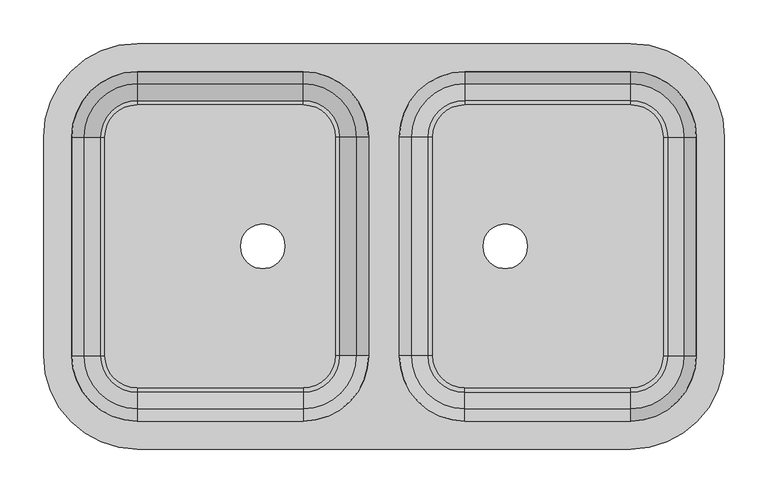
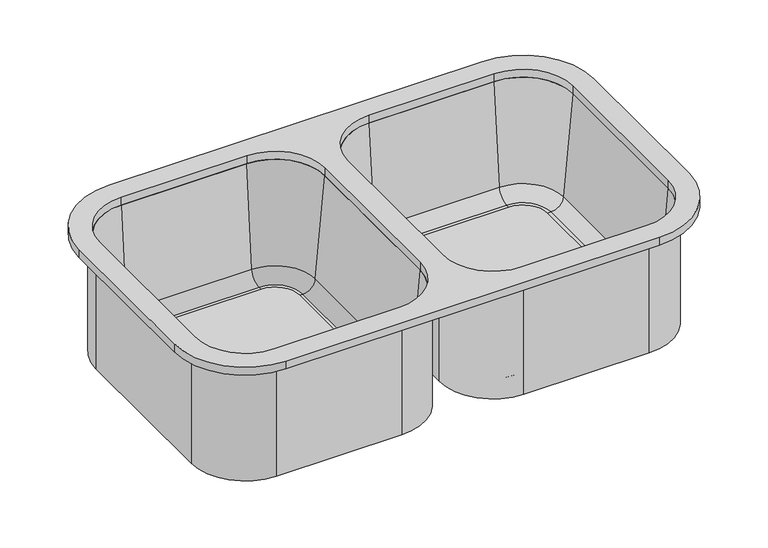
"""IFC4 building model written with IfcOpenShell, lengths in millimetres: flow terminal geometry, Tarja Teka subm BE 780 : TARJA PARA COCINA."""

from ifc_helpers import new_model, si_unit, point, frame, frame_2d, origin, place, context, project, spatial, polyline, circle_curve, ellipse_curve, trimmed, segment, composite_curve, outline, extrude, source, transform, mapped, element, save
from ifc_brep_helpers import plane_surface, cylinder_surface, revolved_surface, advanced_brep


def flow_terminal_e78d3796(model_context):
    return source(origin(), model_context, "Body", "SolidModel", [
        extrude(outline(composite_curve([segment(polyline([(-226.3107594, 182.2454011), (-36.3107594, 182.2454011)]), True, "CONTINUOUS"), segment(trimmed(circle_curve(frame_2d((-36.3107594, 145.3454011)), 36.9), [point((-36.3107594, 182.2454011))], [point((0.5892406, 145.3454011))], False, "CARTESIAN"), True, "CONTINUOUS"), segment(polyline([(0.5892406, 145.3454011), (0.5892406, -104.6545989)]), True, "CONTINUOUS"), segment(trimmed(circle_curve(frame_2d((-36.3107594, -104.6545989)), 36.9), [point((0.5892406, -104.6545989))], [point((-36.3107594, -141.5545989))], False, "CARTESIAN"), True, "CONTINUOUS"), segment(polyline([(-36.3107594, -141.5545989), (-226.3107594, -141.5545989)]), True, "CONTINUOUS"), segment(trimmed(circle_curve(frame_2d((-226.3107594, -104.6545989)), 36.9), [point((-226.3107594, -141.5545989))], [point((-263.2107594, -104.6545989))], False, "CARTESIAN"), True, "CONTINUOUS"), segment(polyline([(-263.2107594, -104.6545989), (-263.2107594, 145.3454011)]), True, "CONTINUOUS"), segment(trimmed(circle_curve(frame_2d((-226.3107594, 145.3454011)), 36.9), [point((-263.2107594, 145.3454011))], [point((-226.3107594, 182.2454011))], False, "CARTESIAN"), True, "CONTINUOUS")], self_intersect=False), holes=[composite_curve([segment(trimmed(circle_curve(frame_2d((-82.5783069, 20.3454011)), 25.4), [point((-57.1783069, 20.3454011))], [point((-107.9783069, 20.3454011))], True, "CARTESIAN"), True, "CONTINUOUS"), segment(trimmed(circle_curve(frame_2d((-82.5783069, 20.3454011)), 25.4), [point((-107.9783069, 20.3454011))], [point((-57.1783069, 20.3454011))], True, "CARTESIAN"), True, "CONTINUOUS")], self_intersect=False)]), frame((0.0, 0.0, 727.1), z_axis=(0.0, 0.0, 1.0), x_axis=(1.0, 0.0, 0.0)), (0.0, 0.0, 1.0), 9.525),
        advanced_brep(
        [(-301.3107594, 145.3454011, 914.4), (-226.3107594, 220.3454011, 914.4), (-226.3107594, 226.6954011, 914.4), (-307.6607594, 145.3454011, 914.4), (-287.2788624, 145.3454011, 754.0146831), (-226.3107594, 206.3135041, 754.0146831), (-268.3013534, 145.3454011, 736.625), (-226.3107594, 187.3359951, 736.625), (-263.2107594, 145.3454011, 736.625), (-226.3107594, 182.2454011, 736.625), (-263.2107594, 145.3454011, 727.1), (-226.3107594, 182.2454011, 727.1), (-307.6607594, 145.3454011, 727.1), (-226.3107594, 226.6954011, 727.1), (-307.6607594, -104.6545989, 914.4), (-301.3107594, -104.6545989, 914.4), (-287.2788624, -104.6545989, 754.0146831), (-268.3013534, -104.6545989, 736.625), (-263.2107594, -104.6545989, 736.625), (-263.2107594, -104.6545989, 727.1), (-307.6607594, -104.6545989, 727.1), (-226.3107594, -179.6545989, 914.4), (-226.3107594, -186.0045989, 914.4), (-226.3107594, -165.6227019, 754.0146831), (-226.3107594, -146.6451929, 736.625), (-226.3107594, -141.5545989, 736.625), (-226.3107594, -141.5545989, 727.1), (-226.3107594, -186.0045989, 727.1), (-36.3107594, -186.0045989, 914.4), (-36.3107594, -179.6545989, 914.4), (-36.3107594, -165.6227019, 754.0146831), (-36.3107594, -146.6451929, 736.625), (-36.3107594, -141.5545989, 736.625), (-36.3107594, -141.5545989, 727.1), (-36.3107594, -186.0045989, 727.1), (38.6892406, -104.6545989, 914.4), (45.0392406, -104.6545989, 914.4), (24.6573435, -104.6545989, 754.0146831), (5.6798345, -104.6545989, 736.625), (0.5892406, -104.6545989, 736.625), (0.5892406, -104.6545989, 727.1), (45.0392406, -104.6545989, 727.1), (45.0392406, 145.3454011, 914.4), (38.6892406, 145.3454011, 914.4), (24.6573435, 145.3454011, 754.0146831), (5.6798345, 145.3454011, 736.625), (0.5892406, 145.3454011, 736.625), (0.5892406, 145.3454011, 727.1), (45.0392406, 145.3454011, 727.1), (-36.3107594, 220.3454011, 914.4), (-36.3107594, 226.6954011, 914.4), (-36.3107594, 206.3135041, 754.0146831), (-36.3107594, 187.3359951, 736.625), (-36.3107594, 182.2454011, 736.625), (-36.3107594, 182.2454011, 727.1), (-36.3107594, 226.6954011, 727.1)],
        [
            (0, 1, circle_curve(frame((-226.3107594, 145.3454011, 914.4), z_axis=(0.0, 0.0, -1.0), x_axis=(0.0, 1.0, 0.0)), 75.0)),
            (1, 2),
            (2, 3, circle_curve(frame((-226.3107594, 145.3454011, 914.4), z_axis=(0.0, 0.0, 1.0), x_axis=(0.0, 1.0, 0.0)), 81.35)),
            (3, 0),
            (4, 5, circle_curve(frame((-226.3107594, 145.3454011, 754.0146831), z_axis=(0.0, 0.0, -1.0), x_axis=(0.0, 1.0, 0.0)), 60.968103)),
            (5, 1),
            (0, 4),
            (6, 7, circle_curve(frame((-226.3107594, 145.3454011, 736.625), z_axis=(0.0, 0.0, -1.0), x_axis=(0.0, 1.0, 0.0)), 41.990594)),
            (7, 5, circle_curve(frame((-226.3107594, 187.3359951, 755.675), z_axis=(1.0, 0.0, 0.0), x_axis=(0.0, -1.0, 0.0)), 19.05)),
            (4, 6, circle_curve(frame((-268.3013534, 145.3454011, 755.675), z_axis=(0.0, -1.0, 0.0), x_axis=(1.0, 0.0, 0.0)), 19.05)),
            (8, 9, circle_curve(frame((-226.3107594, 145.3454011, 736.625), z_axis=(0.0, 0.0, -1.0), x_axis=(0.0, 1.0, 0.0)), 36.9)),
            (9, 7),
            (6, 8),
            (10, 11, circle_curve(frame((-226.3107594, 145.3454011, 727.1), z_axis=(0.0, 0.0, -1.0), x_axis=(0.0, 1.0, 0.0)), 36.9)),
            (11, 9),
            (8, 10),
            (12, 13, circle_curve(frame((-226.3107594, 145.3454011, 727.1), z_axis=(0.0, 0.0, -1.0), x_axis=(0.0, 1.0, 0.0)), 81.35)),
            (13, 11),
            (10, 12),
            (2, 13),
            (12, 3),
            (3, 14),
            (14, 15),
            (15, 0),
            (15, 16),
            (16, 4),
            (16, 17, circle_curve(frame((-268.3013534, -104.6545989, 755.675), z_axis=(0.0, -1.0, 0.0), x_axis=(1.0, 0.0, 0.0)), 19.05)),
            (17, 6),
            (17, 18),
            (18, 8),
            (18, 19),
            (19, 10),
            (19, 20),
            (20, 12),
            (20, 14),
            (21, 15, circle_curve(frame((-226.3107594, -104.6545989, 914.4), z_axis=(0.0, 0.0, -1.0), x_axis=(-1.0, 0.0, 0.0)), 75.0)),
            (14, 22, circle_curve(frame((-226.3107594, -104.6545989, 914.4), z_axis=(0.0, 0.0, 1.0), x_axis=(-1.0, 0.0, 0.0)), 81.35)),
            (22, 21),
            (23, 16, circle_curve(frame((-226.3107594, -104.6545989, 754.0146831), z_axis=(0.0, 0.0, -1.0), x_axis=(-1.0, 0.0, 0.0)), 60.968103)),
            (21, 23),
            (24, 17, circle_curve(frame((-226.3107594, -104.6545989, 736.625), z_axis=(0.0, 0.0, -1.0), x_axis=(-1.0, 0.0, 0.0)), 41.990594)),
            (23, 24, circle_curve(frame((-226.3107594, -146.6451929, 755.675), z_axis=(1.0, 0.0, 0.0), x_axis=(0.0, 1.0, 0.0)), 19.05)),
            (25, 18, circle_curve(frame((-226.3107594, -104.6545989, 736.625), z_axis=(0.0, 0.0, -1.0), x_axis=(-1.0, 0.0, 0.0)), 36.9)),
            (24, 25),
            (26, 19, circle_curve(frame((-226.3107594, -104.6545989, 727.1), z_axis=(0.0, 0.0, -1.0), x_axis=(-1.0, 0.0, 0.0)), 36.9)),
            (25, 26),
            (27, 20, circle_curve(frame((-226.3107594, -104.6545989, 727.1), z_axis=(0.0, 0.0, -1.0), x_axis=(-1.0, 0.0, 0.0)), 81.35)),
            (26, 27),
            (27, 22),
            (22, 28),
            (28, 29),
            (29, 21),
            (29, 30),
            (30, 23),
            (30, 31, circle_curve(frame((-36.3107594, -146.6451929, 755.675), z_axis=(1.0, 0.0, 0.0), x_axis=(0.0, 1.0, 0.0)), 19.05)),
            (31, 24),
            (31, 32),
            (32, 25),
            (32, 33),
            (33, 26),
            (33, 34),
            (34, 27),
            (34, 28),
            (35, 29, circle_curve(frame((-36.3107594, -104.6545989, 914.4), z_axis=(0.0, 0.0, -1.0), x_axis=(0.0, -1.0, 0.0)), 75.0)),
            (28, 36, circle_curve(frame((-36.3107594, -104.6545989, 914.4), z_axis=(0.0, 0.0, 1.0), x_axis=(0.0, -1.0, 0.0)), 81.35)),
            (36, 35),
            (37, 30, circle_curve(frame((-36.3107594, -104.6545989, 754.0146831), z_axis=(0.0, 0.0, -1.0), x_axis=(0.0, -1.0, 0.0)), 60.968103)),
            (35, 37),
            (38, 31, circle_curve(frame((-36.3107594, -104.6545989, 736.625), z_axis=(0.0, 0.0, -1.0), x_axis=(0.0, -1.0, 0.0)), 41.990594)),
            (37, 38, circle_curve(frame((5.6798345, -104.6545989, 755.675), z_axis=(0.0, 1.0, 0.0), x_axis=(-1.0, 0.0, 0.0)), 19.05)),
            (39, 32, circle_curve(frame((-36.3107594, -104.6545989, 736.625), z_axis=(0.0, 0.0, -1.0), x_axis=(0.0, -1.0, 0.0)), 36.9)),
            (38, 39),
            (40, 33, circle_curve(frame((-36.3107594, -104.6545989, 727.1), z_axis=(0.0, 0.0, -1.0), x_axis=(0.0, -1.0, 0.0)), 36.9)),
            (39, 40),
            (41, 34, circle_curve(frame((-36.3107594, -104.6545989, 727.1), z_axis=(0.0, 0.0, -1.0), x_axis=(0.0, -1.0, 0.0)), 81.35)),
            (40, 41),
            (41, 36),
            (36, 42),
            (42, 43),
            (43, 35),
            (43, 44),
            (44, 37),
            (44, 45, circle_curve(frame((5.6798345, 145.3454011, 755.675), z_axis=(0.0, 1.0, 0.0), x_axis=(-1.0, 0.0, 0.0)), 19.05)),
            (45, 38),
            (45, 46),
            (46, 39),
            (46, 47),
            (47, 40),
            (47, 48),
            (48, 41),
            (48, 42),
            (49, 43, circle_curve(frame((-36.3107594, 145.3454011, 914.4), z_axis=(0.0, 0.0, -1.0), x_axis=(1.0, 0.0, 0.0)), 75.0)),
            (42, 50, circle_curve(frame((-36.3107594, 145.3454011, 914.4), z_axis=(0.0, 0.0, 1.0), x_axis=(1.0, 0.0, 0.0)), 81.35)),
            (50, 49),
            (51, 44, circle_curve(frame((-36.3107594, 145.3454011, 754.0146831), z_axis=(0.0, 0.0, -1.0), x_axis=(1.0, 0.0, 0.0)), 60.968103)),
            (49, 51),
            (52, 45, circle_curve(frame((-36.3107594, 145.3454011, 736.625), z_axis=(0.0, 0.0, -1.0), x_axis=(1.0, 0.0, 0.0)), 41.990594)),
            (51, 52, circle_curve(frame((-36.3107594, 187.3359951, 755.675), z_axis=(-1.0, 0.0, 0.0), x_axis=(0.0, -1.0, 0.0)), 19.05)),
            (53, 46, circle_curve(frame((-36.3107594, 145.3454011, 736.625), z_axis=(0.0, 0.0, -1.0), x_axis=(1.0, 0.0, 0.0)), 36.9)),
            (52, 53),
            (54, 47, circle_curve(frame((-36.3107594, 145.3454011, 727.1), z_axis=(0.0, 0.0, -1.0), x_axis=(1.0, 0.0, 0.0)), 36.9)),
            (53, 54),
            (55, 48, circle_curve(frame((-36.3107594, 145.3454011, 727.1), z_axis=(0.0, 0.0, -1.0), x_axis=(1.0, 0.0, 0.0)), 81.35)),
            (54, 55),
            (55, 50),
            (50, 2),
            (1, 49),
            (5, 51),
            (7, 52),
            (9, 53),
            (11, 54),
            (13, 55),
        ],
        [
            plane_surface(frame((-226.3107594, 145.3454011, 914.4), z_axis=(0.0, 0.0, 1.0), x_axis=(0.0, 1.0, 0.0))),
            revolved_surface(polyline([(-226.3107594, 220.3454011, 914.4), (-226.3107594, 206.3135041, 754.0146831)]), (-226.3107594, 145.3454011, 0.0), (0.0, 0.0, 1.0)),
            revolved_surface(trimmed(ellipse_curve(frame((-226.3107594, 187.3359951, 755.675), z_axis=(-1.0, 0.0, 0.0), x_axis=(0.0, -1.0, 0.0)), 19.05, 19.05), [point((-226.3107594, 206.3135041, 754.0146831))], [point((-226.3107594, 187.3359951, 736.625))], True, "CARTESIAN"), (-226.3107594, 145.3454011, 0.0), (0.0, 0.0, 1.0)),
            plane_surface(frame((-226.3107594, 145.3454011, 736.625), z_axis=(0.0, 0.0, 1.0), x_axis=(0.0, 1.0, 0.0))),
            revolved_surface(polyline([(-226.3107594, 182.2454011, 736.625), (-226.3107594, 182.2454011, 727.1)]), (-226.3107594, 145.3454011, 0.0), (0.0, 0.0, 1.0)),
            plane_surface(frame((-226.3107594, 145.3454011, 727.1), z_axis=(0.0, 0.0, -1.0), x_axis=(0.0, 1.0, 0.0))),
            cylinder_surface(frame((-226.3107594, 145.3454011, 0.0), z_axis=(0.0, 0.0, 1.0), x_axis=(0.0, 1.0, 0.0)), 81.35),
            plane_surface(frame((-307.6607594, 145.3454011, 914.4), z_axis=(0.0, 0.0, 1.0), x_axis=(0.0, -1.0, 0.0))),
            plane_surface(frame((-301.3107594, 145.3454011, 914.4), z_axis=(0.996194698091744, 0.0, 0.08715574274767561), x_axis=(0.0, -1.0, 0.0))),
            revolved_surface(polyline([(-249.25135339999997, -104.6545989, 755.675), (-249.25135339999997, 145.3454011, 755.675)]), (-268.3013534, 145.3454011, 755.675), (0.0, -1.0, 0.0)),
            plane_surface(frame((-268.3013534, 145.3454011, 736.625), z_axis=(0.0, 0.0, 1.0), x_axis=(0.0, -1.0, 0.0))),
            plane_surface(frame((-263.2107594, 145.3454011, 736.625), z_axis=(1.0, 0.0, 0.0), x_axis=(0.0, -1.0, 0.0))),
            plane_surface(frame((-263.2107594, 145.3454011, 727.1), z_axis=(0.0, 0.0, -1.0), x_axis=(0.0, -1.0, 0.0))),
            plane_surface(frame((-307.6607594, 145.3454011, 727.1), z_axis=(-1.0, 0.0, 0.0), x_axis=(0.0, -1.0, 0.0))),
            plane_surface(frame((-226.3107594, -104.6545989, 914.4), z_axis=(0.0, 0.0, 1.0), x_axis=(-1.0, 0.0, 0.0))),
            revolved_surface(polyline([(-301.3107594, -104.6545989, 914.4), (-287.2788624, -104.6545989, 754.0146831)]), (-226.3107594, -104.6545989, 0.0), (0.0, 0.0, 1.0)),
            revolved_surface(trimmed(ellipse_curve(frame((-268.3013534, -104.6545989, 755.675), z_axis=(0.0, -1.0, 0.0), x_axis=(1.0, 0.0, 0.0)), 19.05, 19.05), [point((-287.2788624, -104.6545989, 754.0146831))], [point((-268.3013534, -104.6545989, 736.625))], True, "CARTESIAN"), (-226.3107594, -104.6545989, 0.0), (0.0, 0.0, 1.0)),
            plane_surface(frame((-226.3107594, -104.6545989, 736.625), z_axis=(0.0, 0.0, 1.0), x_axis=(-1.0, 0.0, 0.0))),
            revolved_surface(polyline([(-263.2107594, -104.6545989, 736.625), (-263.2107594, -104.6545989, 727.1)]), (-226.3107594, -104.6545989, 0.0), (0.0, 0.0, 1.0)),
            plane_surface(frame((-226.3107594, -104.6545989, 727.1), z_axis=(0.0, 0.0, -1.0), x_axis=(-1.0, 0.0, 0.0))),
            cylinder_surface(frame((-226.3107594, -104.6545989, 0.0), z_axis=(0.0, 0.0, 1.0), x_axis=(-1.0, 0.0, 0.0)), 81.35),
            plane_surface(frame((-226.3107594, -186.0045989, 914.4), z_axis=(0.0, 0.0, 1.0), x_axis=(1.0, 0.0, 0.0))),
            plane_surface(frame((-226.3107594, -179.6545989, 914.4), z_axis=(0.0, 0.996194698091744, 0.08715574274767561), x_axis=(1.0, 0.0, 0.0))),
            revolved_surface(polyline([(-36.310759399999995, -127.59519290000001, 755.675), (-226.3107594, -127.59519290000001, 755.675)]), (-226.3107594, -146.6451929, 755.675), (1.0, 0.0, 0.0)),
            plane_surface(frame((-226.3107594, -146.6451929, 736.625), z_axis=(0.0, 0.0, 1.0), x_axis=(1.0, 0.0, 0.0))),
            plane_surface(frame((-226.3107594, -141.5545989, 736.625), z_axis=(0.0, 1.0, 0.0), x_axis=(1.0, 0.0, 0.0))),
            plane_surface(frame((-226.3107594, -141.5545989, 727.1), z_axis=(0.0, 0.0, -1.0), x_axis=(1.0, 0.0, 0.0))),
            plane_surface(frame((-226.3107594, -186.0045989, 727.1), z_axis=(0.0, -1.0, 0.0), x_axis=(1.0, 0.0, 0.0))),
            plane_surface(frame((-36.3107594, -104.6545989, 914.4), z_axis=(0.0, 0.0, 1.0), x_axis=(0.0, -1.0, 0.0))),
            revolved_surface(polyline([(-36.3107594, -179.6545989, 914.4), (-36.3107594, -165.6227019, 754.0146831)]), (-36.3107594, -104.6545989, 0.0), (0.0, 0.0, 1.0)),
            revolved_surface(trimmed(ellipse_curve(frame((-36.3107594, -146.6451929, 755.675), z_axis=(1.0, 0.0, 0.0), x_axis=(0.0, 1.0, 0.0)), 19.05, 19.05), [point((-36.3107594, -165.6227019, 754.0146831))], [point((-36.3107594, -146.6451929, 736.625))], True, "CARTESIAN"), (-36.3107594, -104.6545989, 0.0), (0.0, 0.0, 1.0)),
            plane_surface(frame((-36.3107594, -104.6545989, 736.625), z_axis=(0.0, 0.0, 1.0), x_axis=(0.0, -1.0, 0.0))),
            revolved_surface(polyline([(-36.3107594, -141.5545989, 736.625), (-36.3107594, -141.5545989, 727.1)]), (-36.3107594, -104.6545989, 0.0), (0.0, 0.0, 1.0)),
            plane_surface(frame((-36.3107594, -104.6545989, 727.1), z_axis=(0.0, 0.0, -1.0), x_axis=(0.0, -1.0, 0.0))),
            cylinder_surface(frame((-36.3107594, -104.6545989, 0.0), z_axis=(0.0, 0.0, 1.0), x_axis=(0.0, -1.0, 0.0)), 81.35),
            plane_surface(frame((45.0392406, -104.6545989, 914.4), z_axis=(0.0, 0.0, 1.0), x_axis=(0.0, 1.0, 0.0))),
            plane_surface(frame((38.6892406, -104.6545989, 914.4), z_axis=(-0.996194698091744, 0.0, 0.08715574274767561), x_axis=(0.0, 1.0, 0.0))),
            revolved_surface(polyline([(-13.3701655, 145.3454011, 755.675), (-13.3701655, -104.6545989, 755.675)]), (5.6798345, -104.6545989, 755.675), (0.0, 1.0, 0.0)),
            plane_surface(frame((5.6798345, -104.6545989, 736.625), z_axis=(0.0, 0.0, 1.0), x_axis=(0.0, 1.0, 0.0))),
            plane_surface(frame((0.5892406, -104.6545989, 736.625), z_axis=(-1.0, 0.0, 0.0), x_axis=(0.0, 1.0, 0.0))),
            plane_surface(frame((0.5892406, -104.6545989, 727.1), z_axis=(0.0, 0.0, -1.0), x_axis=(0.0, 1.0, 0.0))),
            plane_surface(frame((45.0392406, -104.6545989, 727.1), z_axis=(1.0, 0.0, 0.0), x_axis=(0.0, 1.0, 0.0))),
            plane_surface(frame((-36.3107594, 145.3454011, 914.4), z_axis=(0.0, 0.0, 1.0), x_axis=(1.0, 0.0, 0.0))),
            revolved_surface(polyline([(38.6892406, 145.3454011, 914.4), (24.6573435, 145.3454011, 754.0146831)]), (-36.3107594, 145.3454011, 0.0), (0.0, 0.0, 1.0)),
            revolved_surface(trimmed(ellipse_curve(frame((5.6798345, 145.3454011, 755.675), z_axis=(0.0, 1.0, 0.0), x_axis=(-1.0, 0.0, 0.0)), 19.05, 19.05), [point((24.6573435, 145.3454011, 754.0146831))], [point((5.6798345, 145.3454011, 736.625))], True, "CARTESIAN"), (-36.3107594, 145.3454011, 0.0), (0.0, 0.0, 1.0)),
            plane_surface(frame((-36.3107594, 145.3454011, 736.625), z_axis=(0.0, 0.0, 1.0), x_axis=(1.0, 0.0, 0.0))),
            revolved_surface(polyline([(0.5892405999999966, 145.3454011, 736.625), (0.5892405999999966, 145.3454011, 727.1)]), (-36.3107594, 145.3454011, 0.0), (0.0, 0.0, 1.0)),
            plane_surface(frame((-36.3107594, 145.3454011, 727.1), z_axis=(0.0, 0.0, -1.0), x_axis=(1.0, 0.0, 0.0))),
            cylinder_surface(frame((-36.3107594, 145.3454011, 0.0), z_axis=(0.0, 0.0, 1.0), x_axis=(1.0, 0.0, 0.0)), 81.35),
            plane_surface(frame((-36.3107594, 226.6954011, 914.4), z_axis=(0.0, 0.0, 1.0), x_axis=(-1.0, 0.0, 0.0))),
            plane_surface(frame((-36.3107594, 220.3454011, 914.4), z_axis=(0.0, -0.996194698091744, 0.08715574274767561), x_axis=(-1.0, 0.0, 0.0))),
            revolved_surface(polyline([(-226.3107594, 168.28599509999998, 755.675), (-36.3107594, 168.28599509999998, 755.675)]), (-36.3107594, 187.3359951, 755.675), (-1.0, 0.0, 0.0)),
            plane_surface(frame((-36.3107594, 187.3359951, 736.625), z_axis=(0.0, 0.0, 1.0), x_axis=(-1.0, 0.0, 0.0))),
            plane_surface(frame((-36.3107594, 182.2454011, 736.625), z_axis=(0.0, -1.0, 0.0), x_axis=(-1.0, 0.0, 0.0))),
            plane_surface(frame((-36.3107594, 182.2454011, 727.1), z_axis=(0.0, 0.0, -1.0), x_axis=(-1.0, 0.0, 0.0))),
            plane_surface(frame((-36.3107594, 226.6954011, 727.1), z_axis=(0.0, 1.0, 0.0), x_axis=(-1.0, 0.0, 0.0))),
        ],
        [
            (0, [[1, 2, 3, 4]]),
            (1, [[5, 6, -1, 7]]),
            (2, [[8, 9, -5, 10]]),
            (3, [[11, 12, -8, 13]]),
            (4, [[14, 15, -11, 16]]),
            (5, [[17, 18, -14, 19]]),
            (6, [[-3, 20, -17, 21]]),
            (7, [[-4, 22, 23, 24]]),
            (8, [[-7, -24, 25, 26]]),
            (9, [[-10, -26, 27, 28]]),
            (10, [[-13, -28, 29, 30]]),
            (11, [[-16, -30, 31, 32]]),
            (12, [[-19, -32, 33, 34]]),
            (13, [[-21, -34, 35, -22]]),
            (14, [[36, -23, 37, 38]]),
            (15, [[39, -25, -36, 40]]),
            (16, [[41, -27, -39, 42]]),
            (17, [[43, -29, -41, 44]]),
            (18, [[45, -31, -43, 46]]),
            (19, [[47, -33, -45, 48]]),
            (20, [[-37, -35, -47, 49]]),
            (21, [[-38, 50, 51, 52]]),
            (22, [[-40, -52, 53, 54]]),
            (23, [[-42, -54, 55, 56]]),
            (24, [[-44, -56, 57, 58]]),
            (25, [[-46, -58, 59, 60]]),
            (26, [[-48, -60, 61, 62]]),
            (27, [[-49, -62, 63, -50]]),
            (28, [[64, -51, 65, 66]]),
            (29, [[67, -53, -64, 68]]),
            (30, [[69, -55, -67, 70]]),
            (31, [[71, -57, -69, 72]]),
            (32, [[73, -59, -71, 74]]),
            (33, [[75, -61, -73, 76]]),
            (34, [[-65, -63, -75, 77]]),
            (35, [[-66, 78, 79, 80]]),
            (36, [[-68, -80, 81, 82]]),
            (37, [[-70, -82, 83, 84]]),
            (38, [[-72, -84, 85, 86]]),
            (39, [[-74, -86, 87, 88]]),
            (40, [[-76, -88, 89, 90]]),
            (41, [[-77, -90, 91, -78]]),
            (42, [[92, -79, 93, 94]]),
            (43, [[95, -81, -92, 96]]),
            (44, [[97, -83, -95, 98]]),
            (45, [[99, -85, -97, 100]]),
            (46, [[101, -87, -99, 102]]),
            (47, [[103, -89, -101, 104]]),
            (48, [[-93, -91, -103, 105]]),
            (49, [[-94, 106, -2, 107]]),
            (50, [[-96, -107, -6, 108]]),
            (51, [[-98, -108, -9, 109]]),
            (52, [[-100, -109, -12, 110]]),
            (53, [[-102, -110, -15, 111]]),
            (54, [[-104, -111, -18, 112]]),
            (55, [[-105, -112, -20, -106]]),
        ],
    ),
        extrude(outline(composite_curve([segment(trimmed(circle_curve(frame_2d((338.6892406, 145.3454011)), 36.9), [point((338.6892406, 182.2454011))], [point((375.5892406, 145.3454011))], False, "CARTESIAN"), True, "CONTINUOUS"), segment(polyline([(375.5892406, 145.3454011), (375.5892406, -104.6545989)]), True, "CONTINUOUS"), segment(trimmed(circle_curve(frame_2d((338.6892406, -104.6545989)), 36.9), [point((375.5892406, -104.6545989))], [point((338.6892406, -141.5545989))], False, "CARTESIAN"), True, "CONTINUOUS"), segment(polyline([(338.6892406, -141.5545989), (148.6892406, -141.5545989)]), True, "CONTINUOUS"), segment(trimmed(circle_curve(frame_2d((148.6892406, -104.6545989)), 36.9), [point((148.6892406, -141.5545989))], [point((111.7892406, -104.6545989))], False, "CARTESIAN"), True, "CONTINUOUS"), segment(polyline([(111.7892406, -104.6545989), (111.7892406, 145.3454011)]), True, "CONTINUOUS"), segment(trimmed(circle_curve(frame_2d((148.6892406, 145.3454011)), 36.9), [point((111.7892406, 145.3454011))], [point((148.6892406, 182.2454011))], False, "CARTESIAN"), True, "CONTINUOUS"), segment(polyline([(148.6892406, 182.2454011), (338.6892406, 182.2454011)]), True, "CONTINUOUS")], self_intersect=False), holes=[composite_curve([segment(trimmed(circle_curve(frame_2d((194.9567881, 20.3454011)), 25.4), [point((169.5567881, 20.3454011))], [point((220.3567881, 20.3454011))], True, "CARTESIAN"), True, "CONTINUOUS"), segment(trimmed(circle_curve(frame_2d((194.9567881, 20.3454011)), 25.4), [point((220.3567881, 20.3454011))], [point((169.5567881, 20.3454011))], True, "CARTESIAN"), True, "CONTINUOUS")], self_intersect=False)]), frame((0.0, 0.0, 727.1), z_axis=(0.0, 0.0, 1.0), x_axis=(1.0, 0.0, 0.0)), (0.0, 0.0, 1.0), 9.525),
        advanced_brep(
        [(420.0392406, 145.3454011, 727.1), (338.6892406, 226.6954011, 727.1), (338.6892406, 226.6954011, 914.4), (420.0392406, 145.3454011, 914.4), (375.5892406, 145.3454011, 727.1), (338.6892406, 182.2454011, 727.1), (375.5892406, 145.3454011, 736.625), (338.6892406, 182.2454011, 736.625), (380.6798345, 145.3454011, 736.625), (338.6892406, 187.3359951, 736.625), (399.6573435, 145.3454011, 754.0146831), (338.6892406, 206.3135041, 754.0146831), (413.6892406, 145.3454011, 914.4), (338.6892406, 220.3454011, 914.4), (420.0392406, -104.6545989, 914.4), (420.0392406, -104.6545989, 727.1), (375.5892406, -104.6545989, 727.1), (375.5892406, -104.6545989, 736.625), (380.6798345, -104.6545989, 736.625), (399.6573435, -104.6545989, 754.0146831), (413.6892406, -104.6545989, 914.4), (338.6892406, -186.0045989, 727.1), (338.6892406, -186.0045989, 914.4), (338.6892406, -141.5545989, 727.1), (338.6892406, -141.5545989, 736.625), (338.6892406, -146.6451929, 736.625), (338.6892406, -165.6227019, 754.0146831), (338.6892406, -179.6545989, 914.4), (148.6892406, -186.0045989, 914.4), (148.6892406, -186.0045989, 727.1), (148.6892406, -141.5545989, 727.1), (148.6892406, -141.5545989, 736.625), (148.6892406, -146.6451929, 736.625), (148.6892406, -165.6227019, 754.0146831), (148.6892406, -179.6545989, 914.4), (67.3392406, -104.6545989, 727.1), (67.3392406, -104.6545989, 914.4), (111.7892406, -104.6545989, 727.1), (111.7892406, -104.6545989, 736.625), (106.6986466, -104.6545989, 736.625), (87.7211376, -104.6545989, 754.0146831), (73.6892406, -104.6545989, 914.4), (67.3392406, 145.3454011, 914.4), (67.3392406, 145.3454011, 727.1), (111.7892406, 145.3454011, 727.1), (111.7892406, 145.3454011, 736.625), (106.6986466, 145.3454011, 736.625), (87.7211376, 145.3454011, 754.0146831), (73.6892406, 145.3454011, 914.4), (148.6892406, 226.6954011, 727.1), (148.6892406, 226.6954011, 914.4), (148.6892406, 182.2454011, 727.1), (148.6892406, 182.2454011, 736.625), (148.6892406, 187.3359951, 736.625), (148.6892406, 206.3135041, 754.0146831), (148.6892406, 220.3454011, 914.4)],
        [
            (0, 1, circle_curve(frame((338.6892406, 145.3454011, 727.1), z_axis=(0.0, 0.0, 1.0), x_axis=(0.0, 1.0, 0.0)), 81.35)),
            (1, 2),
            (2, 3, circle_curve(frame((338.6892406, 145.3454011, 914.4), z_axis=(0.0, 0.0, -1.0), x_axis=(0.0, 1.0, 0.0)), 81.35)),
            (3, 0),
            (4, 5, circle_curve(frame((338.6892406, 145.3454011, 727.1), z_axis=(0.0, 0.0, 1.0), x_axis=(0.0, 1.0, 0.0)), 36.9)),
            (5, 1),
            (0, 4),
            (6, 7, circle_curve(frame((338.6892406, 145.3454011, 736.625), z_axis=(0.0, 0.0, 1.0), x_axis=(0.0, 1.0, 0.0)), 36.9)),
            (7, 5),
            (4, 6),
            (8, 9, circle_curve(frame((338.6892406, 145.3454011, 736.625), z_axis=(0.0, 0.0, 1.0), x_axis=(0.0, 1.0, 0.0)), 41.990594)),
            (9, 7),
            (6, 8),
            (10, 11, circle_curve(frame((338.6892406, 145.3454011, 754.0146831), z_axis=(0.0, 0.0, 1.0), x_axis=(0.0, 1.0, 0.0)), 60.968103)),
            (11, 9, circle_curve(frame((338.6892406, 187.3359951, 755.675), z_axis=(-1.0, 0.0, 0.0), x_axis=(0.0, 1.0, 0.0)), 19.05)),
            (8, 10, circle_curve(frame((380.6798345, 145.3454011, 755.675), z_axis=(0.0, -1.0, 0.0), x_axis=(1.0, 0.0, 0.0)), 19.05)),
            (12, 13, circle_curve(frame((338.6892406, 145.3454011, 914.4), z_axis=(0.0, 0.0, 1.0), x_axis=(0.0, 1.0, 0.0)), 75.0)),
            (13, 11),
            (10, 12),
            (2, 13),
            (12, 3),
            (3, 14),
            (14, 15),
            (15, 0),
            (15, 16),
            (16, 4),
            (16, 17),
            (17, 6),
            (17, 18),
            (18, 8),
            (18, 19, circle_curve(frame((380.6798345, -104.6545989, 755.675), z_axis=(0.0, -1.0, 0.0), x_axis=(1.0, 0.0, 0.0)), 19.05)),
            (19, 10),
            (19, 20),
            (20, 12),
            (20, 14),
            (21, 15, circle_curve(frame((338.6892406, -104.6545989, 727.1), z_axis=(0.0, 0.0, 1.0), x_axis=(1.0, 0.0, 0.0)), 81.35)),
            (14, 22, circle_curve(frame((338.6892406, -104.6545989, 914.4), z_axis=(0.0, 0.0, -1.0), x_axis=(1.0, 0.0, 0.0)), 81.35)),
            (22, 21),
            (23, 16, circle_curve(frame((338.6892406, -104.6545989, 727.1), z_axis=(0.0, 0.0, 1.0), x_axis=(1.0, 0.0, 0.0)), 36.9)),
            (21, 23),
            (24, 17, circle_curve(frame((338.6892406, -104.6545989, 736.625), z_axis=(0.0, 0.0, 1.0), x_axis=(1.0, 0.0, 0.0)), 36.9)),
            (23, 24),
            (25, 18, circle_curve(frame((338.6892406, -104.6545989, 736.625), z_axis=(0.0, 0.0, 1.0), x_axis=(1.0, 0.0, 0.0)), 41.990594)),
            (24, 25),
            (26, 19, circle_curve(frame((338.6892406, -104.6545989, 754.0146831), z_axis=(0.0, 0.0, 1.0), x_axis=(1.0, 0.0, 0.0)), 60.968103)),
            (25, 26, circle_curve(frame((338.6892406, -146.6451929, 755.675), z_axis=(-1.0, 0.0, 0.0), x_axis=(0.0, -1.0, 0.0)), 19.05)),
            (27, 20, circle_curve(frame((338.6892406, -104.6545989, 914.4), z_axis=(0.0, 0.0, 1.0), x_axis=(1.0, 0.0, 0.0)), 75.0)),
            (26, 27),
            (27, 22),
            (22, 28),
            (28, 29),
            (29, 21),
            (29, 30),
            (30, 23),
            (30, 31),
            (31, 24),
            (31, 32),
            (32, 25),
            (32, 33, circle_curve(frame((148.6892406, -146.6451929, 755.675), z_axis=(-1.0, 0.0, 0.0), x_axis=(0.0, -1.0, 0.0)), 19.05)),
            (33, 26),
            (33, 34),
            (34, 27),
            (34, 28),
            (35, 29, circle_curve(frame((148.6892406, -104.6545989, 727.1), z_axis=(0.0, 0.0, 1.0), x_axis=(0.0, -1.0, 0.0)), 81.35)),
            (28, 36, circle_curve(frame((148.6892406, -104.6545989, 914.4), z_axis=(0.0, 0.0, -1.0), x_axis=(0.0, -1.0, 0.0)), 81.35)),
            (36, 35),
            (37, 30, circle_curve(frame((148.6892406, -104.6545989, 727.1), z_axis=(0.0, 0.0, 1.0), x_axis=(0.0, -1.0, 0.0)), 36.9)),
            (35, 37),
            (38, 31, circle_curve(frame((148.6892406, -104.6545989, 736.625), z_axis=(0.0, 0.0, 1.0), x_axis=(0.0, -1.0, 0.0)), 36.9)),
            (37, 38),
            (39, 32, circle_curve(frame((148.6892406, -104.6545989, 736.625), z_axis=(0.0, 0.0, 1.0), x_axis=(0.0, -1.0, 0.0)), 41.990594)),
            (38, 39),
            (40, 33, circle_curve(frame((148.6892406, -104.6545989, 754.0146831), z_axis=(0.0, 0.0, 1.0), x_axis=(0.0, -1.0, 0.0)), 60.968103)),
            (39, 40, circle_curve(frame((106.6986466, -104.6545989, 755.675), z_axis=(0.0, 1.0, 0.0), x_axis=(-1.0, 0.0, 0.0)), 19.05)),
            (41, 34, circle_curve(frame((148.6892406, -104.6545989, 914.4), z_axis=(0.0, 0.0, 1.0), x_axis=(0.0, -1.0, 0.0)), 75.0)),
            (40, 41),
            (41, 36),
            (36, 42),
            (42, 43),
            (43, 35),
            (43, 44),
            (44, 37),
            (44, 45),
            (45, 38),
            (45, 46),
            (46, 39),
            (46, 47, circle_curve(frame((106.6986466, 145.3454011, 755.675), z_axis=(0.0, 1.0, 0.0), x_axis=(-1.0, 0.0, 0.0)), 19.05)),
            (47, 40),
            (47, 48),
            (48, 41),
            (48, 42),
            (49, 43, circle_curve(frame((148.6892406, 145.3454011, 727.1), z_axis=(0.0, 0.0, 1.0), x_axis=(-1.0, 0.0, 0.0)), 81.35)),
            (42, 50, circle_curve(frame((148.6892406, 145.3454011, 914.4), z_axis=(0.0, 0.0, -1.0), x_axis=(-1.0, 0.0, 0.0)), 81.35)),
            (50, 49),
            (51, 44, circle_curve(frame((148.6892406, 145.3454011, 727.1), z_axis=(0.0, 0.0, 1.0), x_axis=(-1.0, 0.0, 0.0)), 36.9)),
            (49, 51),
            (52, 45, circle_curve(frame((148.6892406, 145.3454011, 736.625), z_axis=(0.0, 0.0, 1.0), x_axis=(-1.0, 0.0, 0.0)), 36.9)),
            (51, 52),
            (53, 46, circle_curve(frame((148.6892406, 145.3454011, 736.625), z_axis=(0.0, 0.0, 1.0), x_axis=(-1.0, 0.0, 0.0)), 41.990594)),
            (52, 53),
            (54, 47, circle_curve(frame((148.6892406, 145.3454011, 754.0146831), z_axis=(0.0, 0.0, 1.0), x_axis=(-1.0, 0.0, 0.0)), 60.968103)),
            (53, 54, circle_curve(frame((148.6892406, 187.3359951, 755.675), z_axis=(1.0, 0.0, 0.0), x_axis=(0.0, 1.0, 0.0)), 19.05)),
            (55, 48, circle_curve(frame((148.6892406, 145.3454011, 914.4), z_axis=(0.0, 0.0, 1.0), x_axis=(-1.0, 0.0, 0.0)), 75.0)),
            (54, 55),
            (55, 50),
            (50, 2),
            (1, 49),
            (5, 51),
            (7, 52),
            (9, 53),
            (11, 54),
            (13, 55),
        ],
        [
            cylinder_surface(frame((338.6892406, 145.3454011, 0.0), z_axis=(0.0, 0.0, -1.0), x_axis=(0.0, 1.0, 0.0)), 81.35),
            plane_surface(frame((338.6892406, 145.3454011, 727.1), z_axis=(0.0, 0.0, -1.0), x_axis=(0.0, 1.0, 0.0))),
            revolved_surface(polyline([(338.6892406, 182.2454011, 727.1), (338.6892406, 182.2454011, 736.625)]), (338.6892406, 145.3454011, 0.0), (0.0, 0.0, -1.0)),
            plane_surface(frame((338.6892406, 145.3454011, 736.625), z_axis=(0.0, 0.0, 1.0), x_axis=(0.0, 1.0, 0.0))),
            revolved_surface(trimmed(ellipse_curve(frame((338.6892406, 187.3359951, 755.675), z_axis=(1.0, 0.0, 0.0), x_axis=(0.0, 1.0, 0.0)), 19.05, 19.05), [point((338.6892406, 187.3359951, 736.625))], [point((338.6892406, 206.3135041, 754.0146831))], True, "CARTESIAN"), (338.6892406, 145.3454011, 0.0), (0.0, 0.0, -1.0)),
            revolved_surface(polyline([(338.6892406, 206.3135041, 754.0146831), (338.6892406, 220.3454011, 914.4)]), (338.6892406, 145.3454011, 0.0), (0.0, 0.0, -1.0)),
            plane_surface(frame((338.6892406, 145.3454011, 914.4), z_axis=(0.0, 0.0, 1.0), x_axis=(0.0, 1.0, 0.0))),
            plane_surface(frame((420.0392406, 145.3454011, 914.4), z_axis=(1.0, 0.0, 0.0), x_axis=(0.0, -1.0, 0.0))),
            plane_surface(frame((420.0392406, 145.3454011, 727.1), z_axis=(0.0, 0.0, -1.0), x_axis=(0.0, -1.0, 0.0))),
            plane_surface(frame((375.5892406, 145.3454011, 727.1), z_axis=(-1.0, 0.0, 0.0), x_axis=(0.0, -1.0, 0.0))),
            plane_surface(frame((375.5892406, 145.3454011, 736.625), z_axis=(0.0, 0.0, 1.0), x_axis=(0.0, -1.0, 0.0))),
            revolved_surface(polyline([(399.72983450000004, -104.6545989, 755.675), (399.72983450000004, 145.3454011, 755.675)]), (380.6798345, 145.3454011, 755.675), (0.0, -1.0, 0.0)),
            plane_surface(frame((399.6573435, 145.3454011, 754.0146831), z_axis=(-0.996194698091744, 0.0, 0.08715574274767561), x_axis=(0.0, -1.0, 0.0))),
            plane_surface(frame((413.6892406, 145.3454011, 914.4), z_axis=(0.0, 0.0, 1.0), x_axis=(0.0, -1.0, 0.0))),
            cylinder_surface(frame((338.6892406, -104.6545989, 0.0), z_axis=(0.0, 0.0, -1.0), x_axis=(1.0, 0.0, 0.0)), 81.35),
            plane_surface(frame((338.6892406, -104.6545989, 727.1), z_axis=(0.0, 0.0, -1.0), x_axis=(1.0, 0.0, 0.0))),
            revolved_surface(polyline([(375.5892406, -104.6545989, 727.1), (375.5892406, -104.6545989, 736.625)]), (338.6892406, -104.6545989, 0.0), (0.0, 0.0, -1.0)),
            plane_surface(frame((338.6892406, -104.6545989, 736.625), z_axis=(0.0, 0.0, 1.0), x_axis=(1.0, 0.0, 0.0))),
            revolved_surface(trimmed(ellipse_curve(frame((380.6798345, -104.6545989, 755.675), z_axis=(0.0, -1.0, 0.0), x_axis=(1.0, 0.0, 0.0)), 19.05, 19.05), [point((380.6798345, -104.6545989, 736.625))], [point((399.6573435, -104.6545989, 754.0146831))], True, "CARTESIAN"), (338.6892406, -104.6545989, 0.0), (0.0, 0.0, -1.0)),
            revolved_surface(polyline([(399.6573435, -104.6545989, 754.0146831), (413.6892406, -104.6545989, 914.4)]), (338.6892406, -104.6545989, 0.0), (0.0, 0.0, -1.0)),
            plane_surface(frame((338.6892406, -104.6545989, 914.4), z_axis=(0.0, 0.0, 1.0), x_axis=(1.0, 0.0, 0.0))),
            plane_surface(frame((338.6892406, -186.0045989, 914.4), z_axis=(0.0, -1.0, 0.0), x_axis=(-1.0, 0.0, 0.0))),
            plane_surface(frame((338.6892406, -186.0045989, 727.1), z_axis=(0.0, 0.0, -1.0), x_axis=(-1.0, 0.0, 0.0))),
            plane_surface(frame((338.6892406, -141.5545989, 727.1), z_axis=(0.0, 1.0, 0.0), x_axis=(-1.0, 0.0, 0.0))),
            plane_surface(frame((338.6892406, -141.5545989, 736.625), z_axis=(0.0, 0.0, 1.0), x_axis=(-1.0, 0.0, 0.0))),
            revolved_surface(polyline([(148.6892406, -165.69519290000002, 755.675), (338.6892406, -165.69519290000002, 755.675)]), (338.6892406, -146.6451929, 755.675), (-1.0, 0.0, 0.0)),
            plane_surface(frame((338.6892406, -165.6227019, 754.0146831), z_axis=(0.0, 0.996194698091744, 0.08715574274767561), x_axis=(-1.0, 0.0, 0.0))),
            plane_surface(frame((338.6892406, -179.6545989, 914.4), z_axis=(0.0, 0.0, 1.0), x_axis=(-1.0, 0.0, 0.0))),
            cylinder_surface(frame((148.6892406, -104.6545989, 0.0), z_axis=(0.0, 0.0, -1.0), x_axis=(0.0, -1.0, 0.0)), 81.35),
            plane_surface(frame((148.6892406, -104.6545989, 727.1), z_axis=(0.0, 0.0, -1.0), x_axis=(0.0, -1.0, 0.0))),
            revolved_surface(polyline([(148.6892406, -141.5545989, 727.1), (148.6892406, -141.5545989, 736.625)]), (148.6892406, -104.6545989, 0.0), (0.0, 0.0, -1.0)),
            plane_surface(frame((148.6892406, -104.6545989, 736.625), z_axis=(0.0, 0.0, 1.0), x_axis=(0.0, -1.0, 0.0))),
            revolved_surface(trimmed(ellipse_curve(frame((148.6892406, -146.6451929, 755.675), z_axis=(-1.0, 0.0, 0.0), x_axis=(0.0, -1.0, 0.0)), 19.05, 19.05), [point((148.6892406, -146.6451929, 736.625))], [point((148.6892406, -165.6227019, 754.0146831))], True, "CARTESIAN"), (148.6892406, -104.6545989, 0.0), (0.0, 0.0, -1.0)),
            revolved_surface(polyline([(148.6892406, -165.6227019, 754.0146831), (148.6892406, -179.6545989, 914.4)]), (148.6892406, -104.6545989, 0.0), (0.0, 0.0, -1.0)),
            plane_surface(frame((148.6892406, -104.6545989, 914.4), z_axis=(0.0, 0.0, 1.0), x_axis=(0.0, -1.0, 0.0))),
            plane_surface(frame((67.3392406, -104.6545989, 914.4), z_axis=(-1.0, 0.0, 0.0), x_axis=(0.0, 1.0, 0.0))),
            plane_surface(frame((67.3392406, -104.6545989, 727.1), z_axis=(0.0, 0.0, -1.0), x_axis=(0.0, 1.0, 0.0))),
            plane_surface(frame((111.7892406, -104.6545989, 727.1), z_axis=(1.0, 0.0, 0.0), x_axis=(0.0, 1.0, 0.0))),
            plane_surface(frame((111.7892406, -104.6545989, 736.625), z_axis=(0.0, 0.0, 1.0), x_axis=(0.0, 1.0, 0.0))),
            revolved_surface(polyline([(87.6486466, 145.3454011, 755.675), (87.6486466, -104.6545989, 755.675)]), (106.6986466, -104.6545989, 755.675), (0.0, 1.0, 0.0)),
            plane_surface(frame((87.7211376, -104.6545989, 754.0146831), z_axis=(0.996194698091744, 0.0, 0.08715574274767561), x_axis=(0.0, 1.0, 0.0))),
            plane_surface(frame((73.6892406, -104.6545989, 914.4), z_axis=(0.0, 0.0, 1.0), x_axis=(0.0, 1.0, 0.0))),
            cylinder_surface(frame((148.6892406, 145.3454011, 0.0), z_axis=(0.0, 0.0, -1.0), x_axis=(-1.0, 0.0, 0.0)), 81.35),
            plane_surface(frame((148.6892406, 145.3454011, 727.1), z_axis=(0.0, 0.0, -1.0), x_axis=(-1.0, 0.0, 0.0))),
            revolved_surface(polyline([(111.7892406, 145.3454011, 727.1), (111.7892406, 145.3454011, 736.625)]), (148.6892406, 145.3454011, 0.0), (0.0, 0.0, -1.0)),
            plane_surface(frame((148.6892406, 145.3454011, 736.625), z_axis=(0.0, 0.0, 1.0), x_axis=(-1.0, 0.0, 0.0))),
            revolved_surface(trimmed(ellipse_curve(frame((106.6986466, 145.3454011, 755.675), z_axis=(0.0, 1.0, 0.0), x_axis=(-1.0, 0.0, 0.0)), 19.05, 19.05), [point((106.6986466, 145.3454011, 736.625))], [point((87.7211376, 145.3454011, 754.0146831))], True, "CARTESIAN"), (148.6892406, 145.3454011, 0.0), (0.0, 0.0, -1.0)),
            revolved_surface(polyline([(87.7211376, 145.3454011, 754.0146831), (73.6892406, 145.3454011, 914.4)]), (148.6892406, 145.3454011, 0.0), (0.0, 0.0, -1.0)),
            plane_surface(frame((148.6892406, 145.3454011, 914.4), z_axis=(0.0, 0.0, 1.0), x_axis=(-1.0, 0.0, 0.0))),
            plane_surface(frame((148.6892406, 226.6954011, 914.4), z_axis=(0.0, 1.0, 0.0), x_axis=(1.0, 0.0, 0.0))),
            plane_surface(frame((148.6892406, 226.6954011, 727.1), z_axis=(0.0, 0.0, -1.0), x_axis=(1.0, 0.0, 0.0))),
            plane_surface(frame((148.6892406, 182.2454011, 727.1), z_axis=(0.0, -1.0, 0.0), x_axis=(1.0, 0.0, 0.0))),
            plane_surface(frame((148.6892406, 182.2454011, 736.625), z_axis=(0.0, 0.0, 1.0), x_axis=(1.0, 0.0, 0.0))),
            revolved_surface(polyline([(338.6892406, 206.3859951, 755.675), (148.6892406, 206.3859951, 755.675)]), (148.6892406, 187.3359951, 755.675), (1.0, 0.0, 0.0)),
            plane_surface(frame((148.6892406, 206.3135041, 754.0146831), z_axis=(0.0, -0.996194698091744, 0.08715574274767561), x_axis=(1.0, 0.0, 0.0))),
            plane_surface(frame((148.6892406, 220.3454011, 914.4), z_axis=(0.0, 0.0, 1.0), x_axis=(1.0, 0.0, 0.0))),
        ],
        [
            (0, [[1, 2, 3, 4]]),
            (1, [[5, 6, -1, 7]]),
            (2, [[8, 9, -5, 10]]),
            (3, [[11, 12, -8, 13]]),
            (4, [[14, 15, -11, 16]]),
            (5, [[17, 18, -14, 19]]),
            (6, [[-3, 20, -17, 21]]),
            (7, [[-4, 22, 23, 24]]),
            (8, [[-7, -24, 25, 26]]),
            (9, [[-10, -26, 27, 28]]),
            (10, [[-13, -28, 29, 30]]),
            (11, [[-16, -30, 31, 32]]),
            (12, [[-19, -32, 33, 34]]),
            (13, [[-21, -34, 35, -22]]),
            (14, [[36, -23, 37, 38]]),
            (15, [[39, -25, -36, 40]]),
            (16, [[41, -27, -39, 42]]),
            (17, [[43, -29, -41, 44]]),
            (18, [[45, -31, -43, 46]]),
            (19, [[47, -33, -45, 48]]),
            (20, [[-37, -35, -47, 49]]),
            (21, [[-38, 50, 51, 52]]),
            (22, [[-40, -52, 53, 54]]),
            (23, [[-42, -54, 55, 56]]),
            (24, [[-44, -56, 57, 58]]),
            (25, [[-46, -58, 59, 60]]),
            (26, [[-48, -60, 61, 62]]),
            (27, [[-49, -62, 63, -50]]),
            (28, [[64, -51, 65, 66]]),
            (29, [[67, -53, -64, 68]]),
            (30, [[69, -55, -67, 70]]),
            (31, [[71, -57, -69, 72]]),
            (32, [[73, -59, -71, 74]]),
            (33, [[75, -61, -73, 76]]),
            (34, [[-65, -63, -75, 77]]),
            (35, [[-66, 78, 79, 80]]),
            (36, [[-68, -80, 81, 82]]),
            (37, [[-70, -82, 83, 84]]),
            (38, [[-72, -84, 85, 86]]),
            (39, [[-74, -86, 87, 88]]),
            (40, [[-76, -88, 89, 90]]),
            (41, [[-77, -90, 91, -78]]),
            (42, [[92, -79, 93, 94]]),
            (43, [[95, -81, -92, 96]]),
            (44, [[97, -83, -95, 98]]),
            (45, [[99, -85, -97, 100]]),
            (46, [[101, -87, -99, 102]]),
            (47, [[103, -89, -101, 104]]),
            (48, [[-93, -91, -103, 105]]),
            (49, [[-94, 106, -2, 107]]),
            (50, [[-96, -107, -6, 108]]),
            (51, [[-98, -108, -9, 109]]),
            (52, [[-100, -109, -12, 110]]),
            (53, [[-102, -110, -15, 111]]),
            (54, [[-104, -111, -18, 112]]),
            (55, [[-105, -112, -20, -106]]),
        ],
    ),
        extrude(outline(composite_curve([segment(trimmed(circle_curve(frame_2d((338.6892406, 145.3454011)), 107.0), [point((338.6892406, 252.3454011))], [point((445.6892406, 145.3454011))], False, "CARTESIAN"), True, "CONTINUOUS"), segment(polyline([(445.6892406, 145.3454011), (445.6892406, -104.6545989)]), True, "CONTINUOUS"), segment(trimmed(circle_curve(frame_2d((338.6892406, -104.6545989)), 107.0), [point((445.6892406, -104.6545989))], [point((338.6892406, -211.6545989))], False, "CARTESIAN"), True, "CONTINUOUS"), segment(polyline([(338.6892406, -211.6545989), (-226.3107594, -211.6545989)]), True, "CONTINUOUS"), segment(trimmed(circle_curve(frame_2d((-226.3107594, -104.6545989)), 107.0), [point((-226.3107594, -211.6545989))], [point((-333.3107594, -104.6545989))], False, "CARTESIAN"), True, "CONTINUOUS"), segment(polyline([(-333.3107594, -104.6545989), (-333.3107594, 145.3454011)]), True, "CONTINUOUS"), segment(trimmed(circle_curve(frame_2d((-226.3107594, 145.3454011)), 107.0), [point((-333.3107594, 145.3454011))], [point((-226.3107594, 252.3454011))], False, "CARTESIAN"), True, "CONTINUOUS"), segment(polyline([(-226.3107594, 252.3454011), (338.6892406, 252.3454011)]), True, "CONTINUOUS")], self_intersect=False), holes=[composite_curve([segment(polyline([(338.6892406, 220.3454011), (148.6892406, 220.3454011)]), True, "CONTINUOUS"), segment(trimmed(circle_curve(frame_2d((148.6892406, 145.3454011)), 75.0), [point((148.6892406, 220.3454011))], [point((73.6892406, 145.3454011))], True, "CARTESIAN"), True, "CONTINUOUS"), segment(polyline([(73.6892406, 145.3454011), (73.6892406, -104.6545989)]), True, "CONTINUOUS"), segment(trimmed(circle_curve(frame_2d((148.6892406, -104.6545989)), 75.0), [point((73.6892406, -104.6545989))], [point((148.6892406, -179.6545989))], True, "CARTESIAN"), True, "CONTINUOUS"), segment(polyline([(148.6892406, -179.6545989), (338.6892406, -179.6545989)]), True, "CONTINUOUS"), segment(trimmed(circle_curve(frame_2d((338.6892406, -104.6545989)), 75.0), [point((338.6892406, -179.6545989))], [point((413.6892406, -104.6545989))], True, "CARTESIAN"), True, "CONTINUOUS"), segment(polyline([(413.6892406, -104.6545989), (413.6892406, 145.3454011)]), True, "CONTINUOUS"), segment(trimmed(circle_curve(frame_2d((338.6892406, 145.3454011)), 75.0), [point((413.6892406, 145.3454011))], [point((338.6892406, 220.3454011))], True, "CARTESIAN"), True, "CONTINUOUS")], self_intersect=False), composite_curve([segment(trimmed(circle_curve(frame_2d((-226.3107594, 145.3454011)), 75.0), [point((-226.3107594, 220.3454011))], [point((-301.3107594, 145.3454011))], True, "CARTESIAN"), True, "CONTINUOUS"), segment(polyline([(-301.3107594, 145.3454011), (-301.3107594, -104.6545989)]), True, "CONTINUOUS"), segment(trimmed(circle_curve(frame_2d((-226.3107594, -104.6545989)), 75.0), [point((-301.3107594, -104.6545989))], [point((-226.3107594, -179.6545989))], True, "CARTESIAN"), True, "CONTINUOUS"), segment(polyline([(-226.3107594, -179.6545989), (-36.3107594, -179.6545989)]), True, "CONTINUOUS"), segment(trimmed(circle_curve(frame_2d((-36.3107594, -104.6545989)), 75.0), [point((-36.3107594, -179.6545989))], [point((38.6892406, -104.6545989))], True, "CARTESIAN"), True, "CONTINUOUS"), segment(polyline([(38.6892406, -104.6545989), (38.6892406, 145.3454011)]), True, "CONTINUOUS"), segment(trimmed(circle_curve(frame_2d((-36.3107594, 145.3454011)), 75.0), [point((38.6892406, 145.3454011))], [point((-36.3107594, 220.3454011))], True, "CARTESIAN"), True, "CONTINUOUS"), segment(polyline([(-36.3107594, 220.3454011), (-226.3107594, 220.3454011)]), True, "CONTINUOUS")], self_intersect=False)]), frame((0.0, 0.0, 914.4), z_axis=(0.0, 0.0, 1.0), x_axis=(1.0, 0.0, 0.0)), (0.0, 0.0, 1.0), 12.7),
    ])


if __name__ == "__main__":
    model = new_model("IFC4")
    model_context = context("Model", 3, world=origin())
    ifc_project = project(units=[si_unit("LENGTHUNIT", "METRE", prefix="MILLI")], contexts=[model_context])
    site = spatial("IfcSite", under=ifc_project)
    building = spatial("IfcBuilding", under=site)
    placement = place(None, origin())
    flow_terminal_shape = flow_terminal_e78d3796(model_context)
    element("IfcFlowTerminal", 1, ObjectType="Tarja Teka subm BE 780 : TARJA PARA COCINA", at=placement, inside=building, context=model_context, shape_type="MappedRepresentation", body=[
        mapped(flow_terminal_shape, transform((0.0, 0.0, 0.0), x_axis=(1.0, 0.0, 0.0), y_axis=(0.0, 1.0, 0.0), z_axis=(0.0, 0.0, 1.0))),
    ])
    save(model, "model.ifc")
